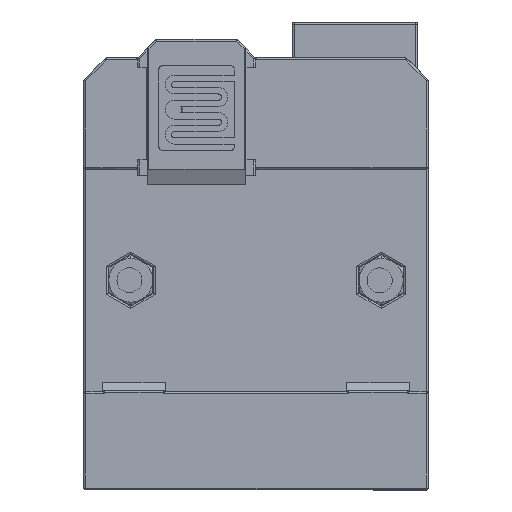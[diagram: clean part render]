
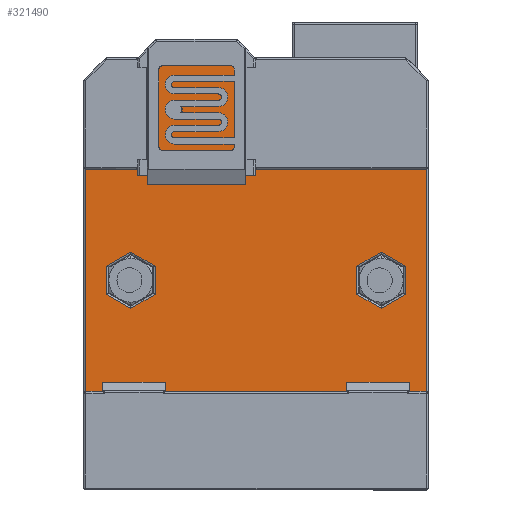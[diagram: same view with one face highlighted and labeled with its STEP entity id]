
A CAD part, left-side view. The second image highlights one B-rep face of the part: STEP entity #321490.
In plain terms, the highlighted planar face has unit normal (-1, 0, 0) as drawn and (0, 0, 1) by its records, which use the part's own axes.
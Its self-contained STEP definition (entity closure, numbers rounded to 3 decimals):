
#314930=CARTESIAN_POINT('',(0.3,15.75,26.));
#314940=VERTEX_POINT('',#314930);
#314970=CARTESIAN_POINT('',(0.,15.75,26.));
#314980=DIRECTION('',(1.,0.,0.));
#314990=VECTOR('',#314980,1000.);
#315000=LINE('',#314970,#314990);
#315010=CARTESIAN_POINT('',(54.7,15.75,26.));
#315020=VERTEX_POINT('',#315010);
#315030=EDGE_CURVE('',#314940,#315020,#315000,.T.);
#319430=CARTESIAN_POINT('',(54.7,51.25,26.));
#319440=DIRECTION('',(0.,1.,0.));
#319450=VECTOR('',#319440,1.);
#319460=LINE('',#319430,#319450);
#319470=CARTESIAN_POINT('',(54.7,51.25,26.));
#319480=VERTEX_POINT('',#319470);
#319490=EDGE_CURVE('',#315020,#319480,#319460,.T.);
#319610=CARTESIAN_POINT('',(55.,51.25,26.));
#319620=DIRECTION('',(0.,0.,-1.));
#319630=DIRECTION('',(-1.,0.,0.));
#319640=AXIS2_PLACEMENT_3D('',#319610,#319620,#319630);
#319650=PLANE('',#319640);
#319660=CARTESIAN_POINT('',(14.5,60.75,26.));
#319670=DIRECTION('',(0.,0.,-1.));
#319680=DIRECTION('',(-1.,0.,0.));
#319690=AXIS2_PLACEMENT_3D('',#319660,#319670,#319680);
#319700=CIRCLE('',#319690,1.25);
#319710=CARTESIAN_POINT('',(13.25,60.75,26.));
#319720=VERTEX_POINT('',#319710);
#319730=CARTESIAN_POINT('',(15.75,60.75,26.));
#319740=VERTEX_POINT('',#319730);
#319750=EDGE_CURVE('',#319720,#319740,#319700,.T.);
#319760=ORIENTED_EDGE('',*,*,#319750,.T.);
#319770=EDGE_CURVE('',#319740,#319720,#319700,.T.);
#319780=ORIENTED_EDGE('',*,*,#319770,.T.);
#319790=EDGE_LOOP('',(#319780,#319760));
#319800=FACE_BOUND('',#319790,.T.);
#319810=CARTESIAN_POINT('',(33.492,13.997,26.));
#319820=DIRECTION('',(-0.866,0.5,0.));
#319830=VECTOR('',#319820,1000.);
#319840=LINE('',#319810,#319830);
#319850=CARTESIAN_POINT('',(7.5,29.004,26.));
#319860=VERTEX_POINT('',#319850);
#319870=CARTESIAN_POINT('',(3.606,31.252,26.));
#319880=VERTEX_POINT('',#319870);
#319890=EDGE_CURVE('',#319860,#319880,#319840,.T.);
#319900=ORIENTED_EDGE('',*,*,#319890,.T.);
#319910=CARTESIAN_POINT('',(52.758,55.133,26.));
#319920=DIRECTION('',(-0.866,-0.5,0.));
#319930=VECTOR('',#319920,1000.);
#319940=LINE('',#319910,#319930);
#319950=CARTESIAN_POINT('',(11.394,31.252,26.));
#319960=VERTEX_POINT('',#319950);
#319970=EDGE_CURVE('',#319960,#319860,#319940,.T.);
#319980=ORIENTED_EDGE('',*,*,#319970,.T.);
#319990=CARTESIAN_POINT('',(11.394,31.425,26.));
#320000=DIRECTION('',(0.,1.,0.));
#320010=VECTOR('',#320000,1.);
#320020=LINE('',#319990,#320010);
#320030=CARTESIAN_POINT('',(11.394,35.748,26.));
#320040=VERTEX_POINT('',#320030);
#320050=EDGE_CURVE('',#319960,#320040,#320020,.T.);
#320060=ORIENTED_EDGE('',*,*,#320050,.F.);
#320070=CARTESIAN_POINT('',(37.386,20.742,26.));
#320080=DIRECTION('',(0.866,-0.5,0.));
#320090=VECTOR('',#320080,1000.);
#320100=LINE('',#320070,#320090);
#320110=CARTESIAN_POINT('',(7.5,37.996,26.));
#320120=VERTEX_POINT('',#320110);
#320130=EDGE_CURVE('',#320120,#320040,#320100,.T.);
#320140=ORIENTED_EDGE('',*,*,#320130,.T.);
#320150=CARTESIAN_POINT('',(48.864,61.878,26.));
#320160=DIRECTION('',(0.866,0.5,0.));
#320170=VECTOR('',#320160,1000.);
#320180=LINE('',#320150,#320170);
#320190=CARTESIAN_POINT('',(3.606,35.748,26.));
#320200=VERTEX_POINT('',#320190);
#320210=EDGE_CURVE('',#320200,#320120,#320180,.T.);
#320220=ORIENTED_EDGE('',*,*,#320210,.T.);
#320230=CARTESIAN_POINT('',(3.606,35.575,26.));
#320240=DIRECTION('',(0.,-1.,0.));
#320250=VECTOR('',#320240,1.);
#320260=LINE('',#320230,#320250);
#320270=EDGE_CURVE('',#320200,#319880,#320260,.T.);
#320280=ORIENTED_EDGE('',*,*,#320270,.F.);
#320290=EDGE_LOOP('',(#320280,#320220,#320140,#320060,#319980,#319900));
#320300=FACE_BOUND('',#320290,.T.);
#320310=CARTESIAN_POINT('',(58.864,44.557,26.));
#320320=DIRECTION('',(0.866,0.5,0.));
#320330=VECTOR('',#320320,1000.);
#320340=LINE('',#320310,#320330);
#320350=CARTESIAN_POINT('',(43.606,35.748,26.));
#320360=VERTEX_POINT('',#320350);
#320370=CARTESIAN_POINT('',(47.5,37.996,26.));
#320380=VERTEX_POINT('',#320370);
#320390=EDGE_CURVE('',#320360,#320380,#320340,.T.);
#320400=ORIENTED_EDGE('',*,*,#320390,.T.);
#320410=CARTESIAN_POINT('',(43.606,35.575,26.));
#320420=DIRECTION('',(0.,-1.,0.));
#320430=VECTOR('',#320420,1.);
#320440=LINE('',#320410,#320430);
#320450=CARTESIAN_POINT('',(43.606,31.252,26.));
#320460=VERTEX_POINT('',#320450);
#320470=EDGE_CURVE('',#320360,#320460,#320440,.T.);
#320480=ORIENTED_EDGE('',*,*,#320470,.F.);
#320490=CARTESIAN_POINT('',(43.492,31.318,26.));
#320500=DIRECTION('',(-0.866,0.5,0.));
#320510=VECTOR('',#320500,1000.);
#320520=LINE('',#320490,#320510);
#320530=CARTESIAN_POINT('',(47.5,29.004,26.));
#320540=VERTEX_POINT('',#320530);
#320550=EDGE_CURVE('',#320540,#320460,#320520,.T.);
#320560=ORIENTED_EDGE('',*,*,#320550,.T.);
#320570=CARTESIAN_POINT('',(62.758,37.813,26.));
#320580=DIRECTION('',(-0.866,-0.5,0.));
#320590=VECTOR('',#320580,1000.);
#320600=LINE('',#320570,#320590);
#320610=CARTESIAN_POINT('',(51.394,31.252,26.));
#320620=VERTEX_POINT('',#320610);
#320630=EDGE_CURVE('',#320620,#320540,#320600,.T.);
#320640=ORIENTED_EDGE('',*,*,#320630,.T.);
#320650=CARTESIAN_POINT('',(51.394,31.425,26.));
#320660=DIRECTION('',(0.,1.,0.));
#320670=VECTOR('',#320660,1.);
#320680=LINE('',#320650,#320670);
#320690=CARTESIAN_POINT('',(51.394,35.748,26.));
#320700=VERTEX_POINT('',#320690);
#320710=EDGE_CURVE('',#320620,#320700,#320680,.T.);
#320720=ORIENTED_EDGE('',*,*,#320710,.F.);
#320730=CARTESIAN_POINT('',(47.386,38.062,26.));
#320740=DIRECTION('',(0.866,-0.5,0.));
#320750=VECTOR('',#320740,1000.);
#320760=LINE('',#320730,#320750);
#320770=EDGE_CURVE('',#320380,#320700,#320760,.T.);
#320780=ORIENTED_EDGE('',*,*,#320770,.T.);
#320790=EDGE_LOOP('',(#320780,#320720,#320640,#320560,#320480,#320400));
#320800=FACE_BOUND('',#320790,.T.);
#320810=CARTESIAN_POINT('',(0.3,51.25,26.));
#320820=DIRECTION('',(0.,-1.,0.));
#320830=VECTOR('',#320820,1.);
#320840=LINE('',#320810,#320830);
#320850=CARTESIAN_POINT('',(0.3,51.25,26.));
#320860=VERTEX_POINT('',#320850);
#320870=EDGE_CURVE('',#320860,#314940,#320840,.T.);
#320880=ORIENTED_EDGE('',*,*,#320870,.T.);
#320890=CARTESIAN_POINT('',(0.,51.25,26.));
#320900=DIRECTION('',(-1.,0.,0.));
#320910=VECTOR('',#320900,1000.);
#320920=LINE('',#320890,#320910);
#320930=CARTESIAN_POINT('',(8.3,51.25,26.));
#320940=VERTEX_POINT('',#320930);
#320950=EDGE_CURVE('',#320940,#320860,#320920,.T.);
#320960=ORIENTED_EDGE('',*,*,#320950,.T.);
#320970=CARTESIAN_POINT('',(8.3,51.55,26.));
#320980=DIRECTION('',(0.,0.,-1.));
#320990=DIRECTION('',(-1.,0.,0.));
#321000=AXIS2_PLACEMENT_3D('',#320970,#320980,#320990);
#321010=CIRCLE('',#321000,0.3);
#321020=CARTESIAN_POINT('',(8.6,51.55,26.));
#321030=VERTEX_POINT('',#321020);
#321040=EDGE_CURVE('',#321030,#320940,#321010,.T.);
#321050=ORIENTED_EDGE('',*,*,#321040,.T.);
#321060=CARTESIAN_POINT('',(8.6,51.25,26.));
#321070=DIRECTION('',(0.,-1.,0.));
#321080=VECTOR('',#321070,1000.);
#321090=LINE('',#321060,#321080);
#321100=CARTESIAN_POINT('',(8.6,68.7,26.));
#321110=VERTEX_POINT('',#321100);
#321120=EDGE_CURVE('',#321110,#321030,#321090,.T.);
#321130=ORIENTED_EDGE('',*,*,#321120,.T.);
#321140=CARTESIAN_POINT('',(55.,68.7,26.));
#321150=DIRECTION('',(-1.,0.,0.));
#321160=VECTOR('',#321150,1.);
#321170=LINE('',#321140,#321160);
#321180=CARTESIAN_POINT('',(27.4,68.7,26.));
#321190=VERTEX_POINT('',#321180);
#321200=EDGE_CURVE('',#321190,#321110,#321170,.T.);
#321210=ORIENTED_EDGE('',*,*,#321200,.T.);
#321220=CARTESIAN_POINT('',(27.4,51.25,26.));
#321230=DIRECTION('',(0.,1.,0.));
#321240=VECTOR('',#321230,1000.);
#321250=LINE('',#321220,#321240);
#321260=CARTESIAN_POINT('',(27.4,51.55,26.));
#321270=VERTEX_POINT('',#321260);
#321280=EDGE_CURVE('',#321270,#321190,#321250,.T.);
#321290=ORIENTED_EDGE('',*,*,#321280,.T.);
#321300=CARTESIAN_POINT('',(27.7,51.55,26.));
#321310=DIRECTION('',(0.,0.,-1.));
#321320=DIRECTION('',(-1.,0.,0.));
#321330=AXIS2_PLACEMENT_3D('',#321300,#321310,#321320);
#321340=CIRCLE('',#321330,0.3);
#321350=CARTESIAN_POINT('',(27.7,51.25,26.));
#321360=VERTEX_POINT('',#321350);
#321370=EDGE_CURVE('',#321360,#321270,#321340,.T.);
#321380=ORIENTED_EDGE('',*,*,#321370,.T.);
#321390=CARTESIAN_POINT('',(0.,51.25,26.));
#321400=DIRECTION('',(-1.,0.,0.));
#321410=VECTOR('',#321400,1000.);
#321420=LINE('',#321390,#321410);
#321430=EDGE_CURVE('',#319480,#321360,#321420,.T.);
#321440=ORIENTED_EDGE('',*,*,#321430,.T.);
#321450=ORIENTED_EDGE('',*,*,#319490,.T.);
#321460=ORIENTED_EDGE('',*,*,#315030,.T.);
#321470=EDGE_LOOP('',(#321460,#321450,#321440,#321380,#321290,#321210,
#321130,#321050,#320960,#320880));
#321480=FACE_OUTER_BOUND('',#321470,.T.);
#321490=ADVANCED_FACE('',(#319800,#320300,#320800,#321480),#319650,.F.);
